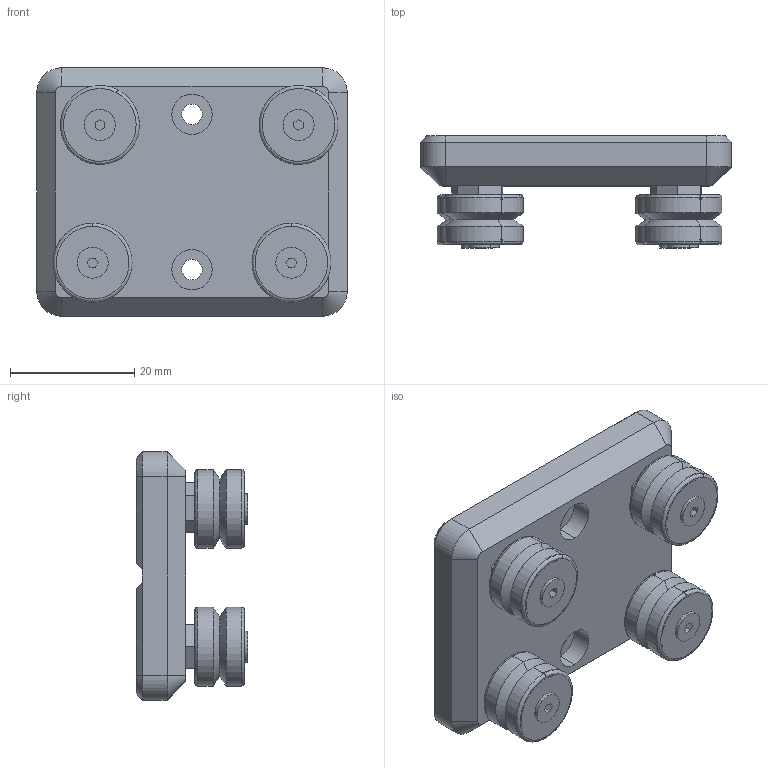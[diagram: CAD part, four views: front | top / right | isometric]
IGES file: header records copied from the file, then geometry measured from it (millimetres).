
Start section: 3D InterOp IGES (Version 21 0 1), Spatial Corp. Copyright (c) 1999-2007.
Global section: file name: RG-50(GF-12N).igs; native system: Spatial Corp.; preprocessor: 3D InterOp GENERIC/IGES 3.0; author: Noname; organization: Noname; date: 20220328.105302; units: millimetre
Bounding box: 50 x 18 x 40 mm (x, y, z)
Surface area: 11527.4 mm2 (no closed solid volume)
Topology: 0 solids, 0 shells, 338 faces, 1516 edges, 1484 vertices
Faces by surface type: revolution 204, extrusion 134
